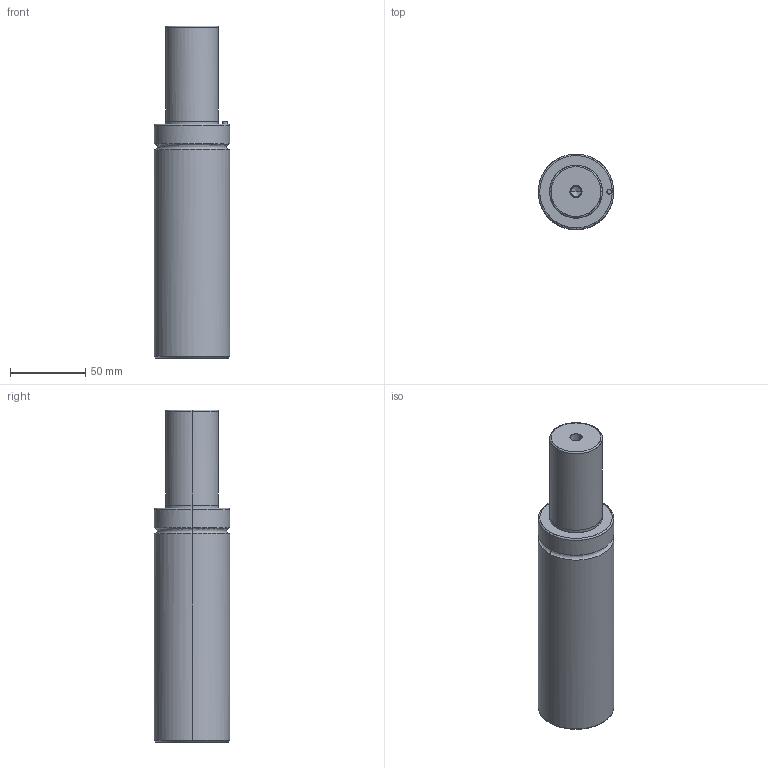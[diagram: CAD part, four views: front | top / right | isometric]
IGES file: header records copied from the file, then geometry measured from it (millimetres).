
Global section: file name: E:\UnigraphicsGraphicData\MISUMI_PRESS-PARTS\IGES\3d_gsm50-63_03891_r00.igs; native system: NX V5.0; preprocessor: UGS NX IGES V5.0; author: MISUMI; date: 20110105.160817; units: millimetre
Bounding box: 50 x 49.94 x 220 mm (x, y, z)
Surface area: 36983.8 mm2 (no closed solid volume)
Topology: 0 solids, 0 shells, 50 faces, 344 edges, 336 vertices
Faces by surface type: bspline 50
